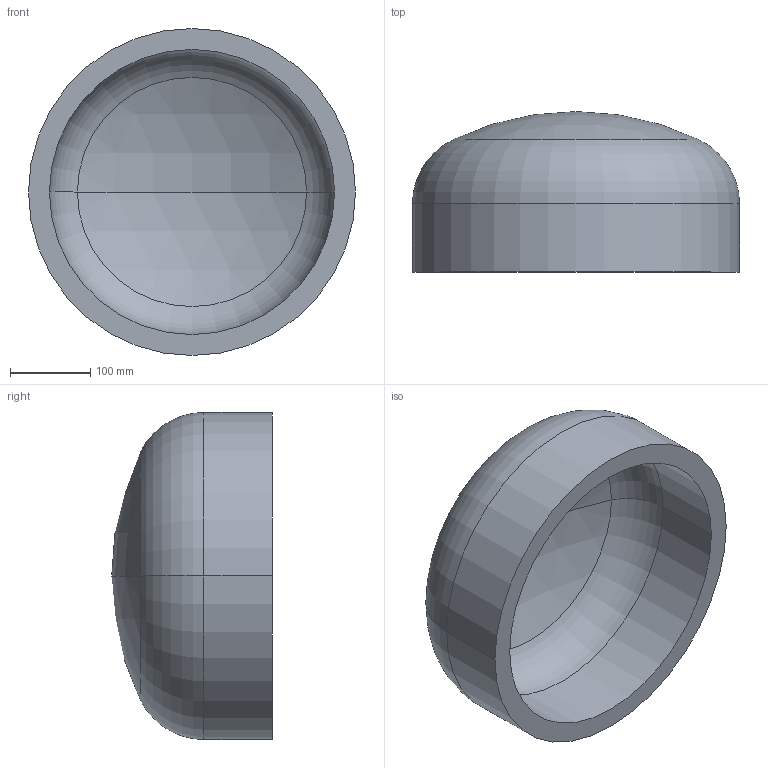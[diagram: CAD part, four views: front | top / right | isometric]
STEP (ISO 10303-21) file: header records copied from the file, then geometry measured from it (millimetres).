
FILE_DESCRIPTION (( 'STEP AP203' ), '1' );
FILE_NAME ('DIN 28013 Korbbogenform_-_Boden DIN 28013 - 406,4 x 85 - I - s=26.step', '2016-07-01T07:49:55', ( '' ), ( '' ), 'SwSTEP 2.0', 'SolidWorks 2013', '' );
FILE_SCHEMA (( 'CONFIG_CONTROL_DESIGN' ));
Length unit declared in the file: millimetre
Products named in the file (1): DIN 28013 Korbbogenform_-_Boden DIN 28013 - 406,4 x 85 - I - s=26
Bounding box: 406.4 x 199.57 x 406.4 mm (x, y, z)
Volume: 6939177.2 mm3; surface area: 566270.2 mm2
Topology: 1 solids, 1 shells, 13 faces, 24 edges, 14 vertices
Faces by surface type: torus 4, cylinder 4, sphere 4, plane 1
Entity records: 407 total; most frequent: DIRECTION 72, CARTESIAN_POINT 52, ORIENTED_EDGE 48, AXIS2_PLACEMENT_3D 34, EDGE_CURVE 24, CIRCLE 20, EDGE_LOOP 14, VERTEX_POINT 14
